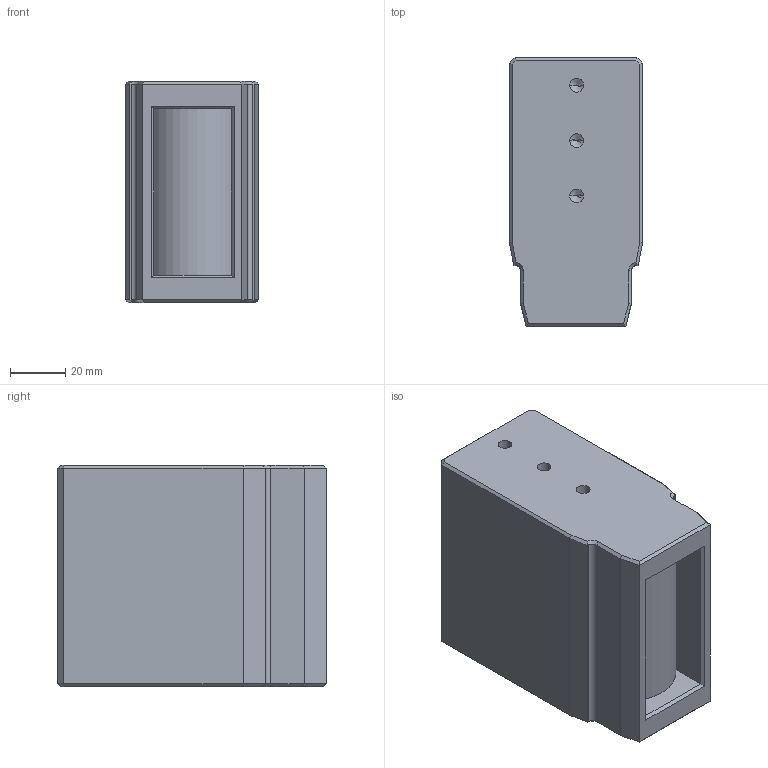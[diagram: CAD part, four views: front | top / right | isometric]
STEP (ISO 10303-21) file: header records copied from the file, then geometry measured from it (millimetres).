
FILE_DESCRIPTION (( 'STEP AP203' ), '1' );
FILE_NAME ('PPX-LS80-W.STEP', '2021-10-19T09:38:46', ( 'China' ), ( 'Home' ), 'SwSTEP 2.0', 'SolidWorks 2016', '' );
FILE_SCHEMA (( 'CONFIG_CONTROL_DESIGN' ));
Length unit declared in the file: millimetre
Products named in the file (4): PPX-LS80翋极; PPX-LS80-W-A1.0諉諳假蚾啣; PPX-LS80-W; 瑤諾譫芛
Assembly tree (3 placements, depth 2):
  PPX-LS80-W
    PPX-LS80翋极
    PPX-LS80-W-A1.0諉諳假蚾啣
    瑤諾譫芛
Bounding box: 48 x 97 x 80 mm (x, y, z)
Volume: 232336.1 mm3; surface area: 65349.6 mm2
Topology: 3 solids, 4 shells, 220 faces, 522 edges, 320 vertices
Faces by surface type: plane 136, cylinder 58, cone 22, torus 4
Entity records: 6614 total; most frequent: DIRECTION 1094, CARTESIAN_POINT 1085, ORIENTED_EDGE 1020, EDGE_CURVE 510, VECTOR 368, LINE 368, AXIS2_PLACEMENT_3D 363, VERTEX_POINT 320
